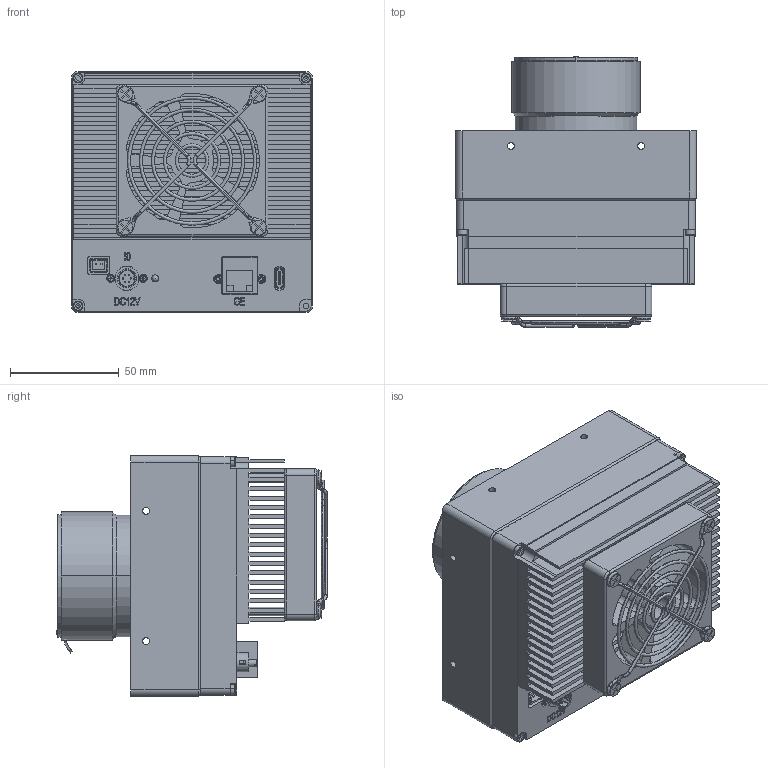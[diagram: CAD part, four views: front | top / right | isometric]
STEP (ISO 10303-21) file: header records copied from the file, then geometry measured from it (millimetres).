
FILE_DESCRIPTION (( 'STEP AP203' ), '1' );
FILE_NAME ('TTS46MGV-5M1.STEP', '2022-12-06T01:23:03', ( '微软用户' ), ( '微软中国' ), 'SwSTEP 2.0', 'SolidWorks 2017', '' );
FILE_SCHEMA (( 'CONFIG_CONTROL_DESIGN' ));
Length unit declared in the file: millimetre
Products named in the file (1): TTS46MGV-5M1
Bounding box: 111 x 124.72 x 111 mm (x, y, z)
Surface area: 146558.4 mm2 (no closed solid volume)
Topology: 0 solids, 72 shells, 869 faces, 3083 edges, 2240 vertices
Faces by surface type: plane 446, cylinder 272, bspline 78, cone 52, torus 14, sphere 7
Entity records: 36145 total; most frequent: CARTESIAN_POINT 10210, DIRECTION 5356, ORIENTED_EDGE 4855, EDGE_CURVE 3064, VERTEX_POINT 2232, LINE 1944, VECTOR 1944, AXIS2_PLACEMENT_3D 1706
